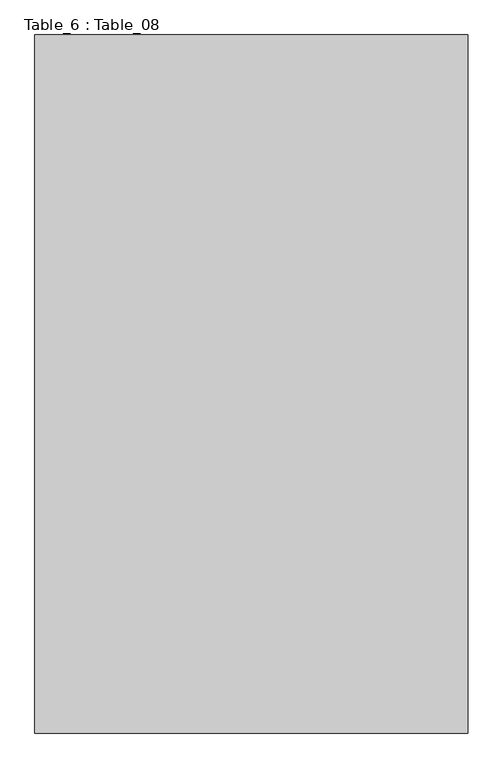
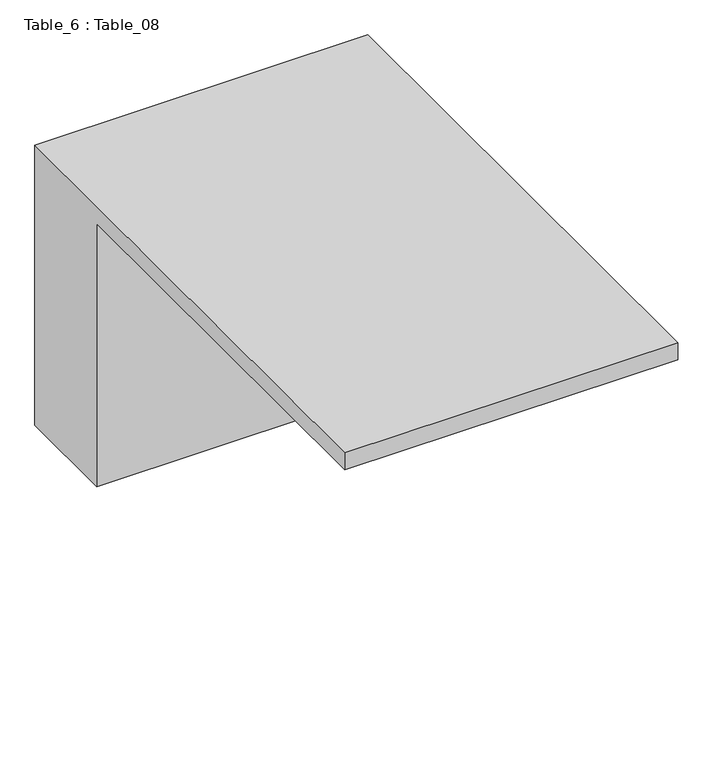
"""IFC4 building model written with IfcOpenShell, lengths in millimetres: furniture geometry, Table_6 : Table_08."""

from ifc_helpers import new_model, si_unit, origin, place, context, project, spatial, faceted_brep, source, transform, mapped, element, save


def table_6_table_08_958b2a60(model_context):
    return source(origin(), model_context, "Body", "Brep", [
        faceted_brep([(1205.3310147, 4096.9935445, 4360.7762909), (125.3310147, 4096.9935445, 4360.7762909), (125.3310147, 2356.9935445, 4360.7762909), (1205.3310147, 2356.9935445, 4360.7762909), (125.3310147, 4096.9935445, 3400.0), (1205.3310147, 4096.9935445, 3400.0), (1205.3310147, 3750.3801786, 3400.0), (125.3310147, 3750.3801786, 3400.0), (1109.366394, 4096.9935445, 3893.1304117), (229.366394, 4096.9935445, 3893.1304117), (229.366394, 4096.9935445, 3558.4914832), (1109.366394, 4096.9935445, 3558.4914832), (1109.366394, 4096.9935445, 4302.2769101), (229.366394, 4096.9935445, 4302.2769101), (229.366394, 4096.9935445, 3963.041841), (1109.366394, 4096.9935445, 3963.041841), (125.3310147, 3750.3801786, 4302.2769101), (125.3310147, 2356.9935445, 4302.2769101), (1205.3310147, 2356.9935445, 4302.2769101), (1205.3310147, 3750.3801786, 4302.2769101), (1109.366394, 3805.0987006, 3893.1304117), (229.366394, 3805.0987006, 3893.1304117), (229.366394, 3805.0987006, 3558.4914832), (1109.366394, 3805.0987006, 3558.4914832), (1109.366394, 3805.0987006, 4302.2769101), (229.366394, 3805.0987006, 4302.2769101), (229.366394, 3805.0987006, 3963.041841), (1109.366394, 3805.0987006, 3963.041841)], [[[0, 1, 2, 3]], [[4, 5, 6, 7]], [[1, 0, 5, 4], [8, 9, 10, 11], [12, 13, 14, 15]], [[2, 1, 4, 7, 16, 17]], [[3, 2, 17, 18]], [[0, 3, 18, 19, 6, 5]], [[16, 19, 18, 17]], [[19, 16, 7, 6]], [[20, 21, 9, 8]], [[22, 23, 11, 10]], [[21, 22, 10, 9]], [[21, 20, 23, 22]], [[23, 20, 8, 11]], [[24, 25, 13, 12]], [[26, 27, 15, 14]], [[25, 26, 14, 13]], [[25, 24, 27, 26]], [[27, 24, 12, 15]]]),
    ])


if __name__ == "__main__":
    model = new_model("IFC4")
    model_context = context("Model", 3, world=origin())
    ifc_project = project(units=[si_unit("LENGTHUNIT", "METRE", prefix="MILLI")], contexts=[model_context])
    site = spatial("IfcSite", under=ifc_project)
    building = spatial("IfcBuilding", under=site)
    placement = place(None, origin())
    table_6_table_08_shape = table_6_table_08_958b2a60(model_context)
    element("IfcFurniture", 1, ObjectType="Table_6 : Table_08", at=placement, inside=building, context=model_context, shape_type="MappedRepresentation", body=[
        mapped(table_6_table_08_shape, transform((0.0, 0.0, 0.0), x_axis=(1.0, 0.0, 0.0), y_axis=(0.0, 1.0, 0.0), z_axis=(0.0, 0.0, 1.0))),
    ])
    save(model, "model.ifc")
